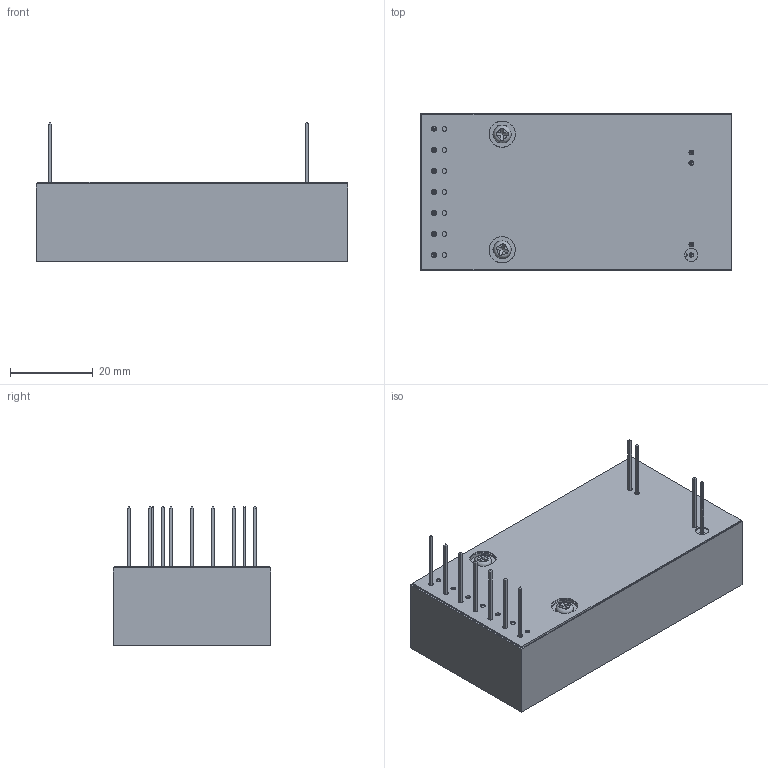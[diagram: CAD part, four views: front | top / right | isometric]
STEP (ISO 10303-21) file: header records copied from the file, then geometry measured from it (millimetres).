
FILE_DESCRIPTION((''),'2;1');
FILE_NAME('K:\UV\UV_ENG\LAYOUTS\AA\OUTLINE DRAWING\OL-002_AA SERIES.stp','2019-01-30T09:22:42',('bholden'),(''),'Autodesk Inventor 2012','Autodesk Inventor 2012','');
FILE_SCHEMA(('AUTOMOTIVE_DESIGN { 1 0 10303 214 1 1 1 1 }'));
Length unit declared in the file: inch
Products named in the file (1): OL-002_AA SERIES
Bounding box: 75.44 x 38.1 x 33.46 mm (x, y, z)
Surface area: 35169.4 mm2 (no closed solid volume)
Topology: 0 solids, 11 shells, 594 faces, 1494 edges, 953 vertices
Faces by surface type: plane 443, cone 87, cylinder 62, torus 2
Full cylindrical faces by diameter (mm): 0.127 x3, 1.016 x12, 1.168 x17, 1.694 x2, 2.184 x2, 2.489 x2, 3.175 x6, 3.251 x4, 4.242 x2, 6.35 x5, 12.7 x2
Entity records: 17169 total; most frequent: CARTESIAN_POINT 2926, DIRECTION 2663, ORIENTED_EDGE 2596, EDGE_CURVE 1298, VECTOR 1039, LINE 1039, VERTEX_POINT 903, EDGE_LOOP 869
